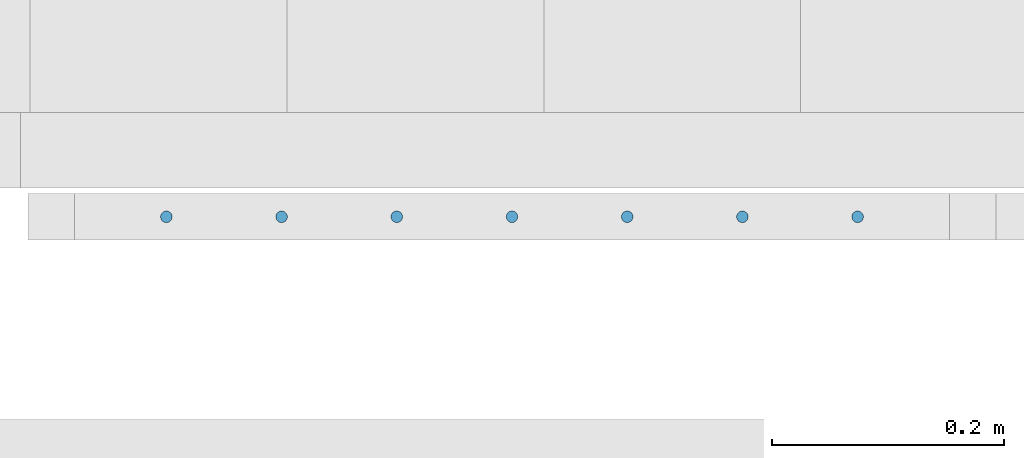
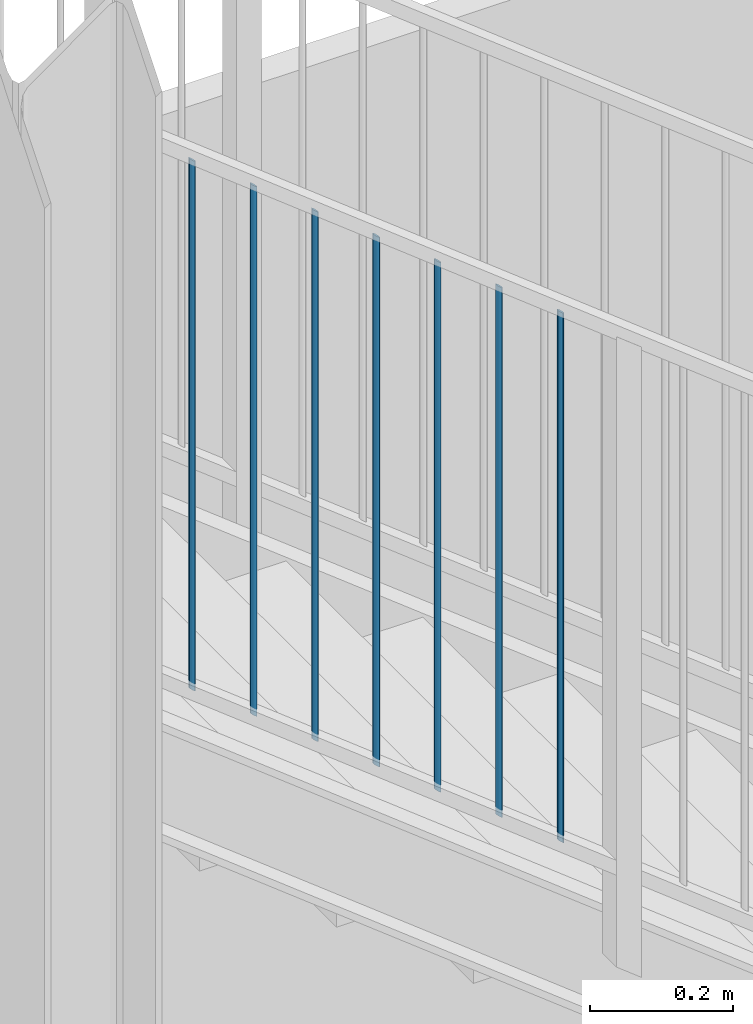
# One storey, part 23 of 135: 7 members, 1 element without a shape of its own.
"""IFC2X3 building model written with IfcOpenShell, lengths in millimetres."""

from ifc_helpers import new_model, entity, si_unit, converted_unit, derived_unit, money_unit, direction, frame, origin_with_axes, place, context, subcontext, project, spatial, faceted_brep, source, transform, mapped, material, type_object, type_shapes, element, aggregate, save


model = new_model("IFC2X3")

# Units and contexts
model_context = context("Model", 3, precision=0.01, world=origin_with_axes(), true_north=direction((0.0, 1.0)))
body_context = subcontext(model_context, "Body", "Model", "MODEL_VIEW")
ifc_project = project(units=[si_unit("LENGTHUNIT", "METRE", prefix="MILLI"), si_unit("AREAUNIT", "SQUARE_METRE"), si_unit("VOLUMEUNIT", "CUBIC_METRE"), converted_unit("PLANEANGLEUNIT", "DEGREE", entity("IfcPlaneAngleMeasure", 0.0174532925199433), si_unit("PLANEANGLEUNIT", "RADIAN"), dimensions=[0, 0, 0, 0, 0, 0, 0]), money_unit("EUR"), converted_unit("TIMEUNIT", "Year", entity("IfcTimeMeasure", 31557600.0), si_unit("TIMEUNIT", "SECOND"), dimensions=[0, 0, 1, 0, 0, 0, 0]), si_unit("MASSUNIT", "GRAM", prefix="KILO"), si_unit("THERMODYNAMICTEMPERATUREUNIT", "DEGREE_CELSIUS"), si_unit("LUMINOUSINTENSITYUNIT", "LUMEN"), si_unit("ENERGYUNIT", "JOULE", prefix="MEGA"), derived_unit("THERMALCONDUCTANCEUNIT", [(si_unit("POWERUNIT", "WATT"), 1), (si_unit("LENGTHUNIT", "METRE"), -1), (si_unit("THERMODYNAMICTEMPERATUREUNIT", "KELVIN"), -1)]), derived_unit("SPECIFICHEATCAPACITYUNIT", [(si_unit("ENERGYUNIT", "JOULE"), 1), (si_unit("MASSUNIT", "GRAM", prefix="KILO"), -1), (si_unit("THERMODYNAMICTEMPERATUREUNIT", "KELVIN"), -1)]), derived_unit("MASSDENSITYUNIT", [(si_unit("MASSUNIT", "GRAM", prefix="KILO"), 1), (si_unit("VOLUMEUNIT", "CUBIC_METRE"), -1)])], contexts=[model_context])

# Site, building, storey
site_placement = place(None, origin_with_axes())
site = spatial("IfcSite", under=ifc_project, at=site_placement, Name="Site", CompositionType="ELEMENT")
building_placement = place(site_placement, origin_with_axes())
building = spatial("IfcBuilding", under=site, at=building_placement, Name="Naam gebouw", CompositionType="ELEMENT")
storey_placement = place(building_placement, origin_with_axes())
storey = spatial("IfcBuildingStorey", under=building, at=storey_placement, Name="Begane grond N", CompositionType="ELEMENT", Elevation=0.0)

# Railing, members
railing_type = type_object("IfcRailingType", Name="Railing Type", PredefinedType="NOTDEFINED")
railing_placement = place(storey_placement, frame((56130.0, 22505.9124251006, 2285.20743093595), z_axis=(0.0, 0.0, 1.0), x_axis=(1.0, 0.0, 0.0)))
railing = element("IfcRailing", 1, at=railing_placement, inside=storey, type_object=railing_type, Name="_Reling-x", PredefinedType="NOTDEFINED")
ifc_material = material(Name="Metaal - Staal C")
member_type = type_object("IfcMemberType", Name="IfcMember", PredefinedType="MEMBER")
shared_shape = source(origin_with_axes(), body_context, "Body", "Brep", [
    faceted_brep([(0.0, -5.000000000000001, 3.926837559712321), (0.0, -5.000000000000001, 911.4268375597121), (-0.8682408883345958, -4.924038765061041, 911.3671800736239), (-0.8682408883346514, -4.924038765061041, 3.867180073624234), (0.8682408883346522, -4.924038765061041, 3.867180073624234), (0.8682408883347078, -4.924038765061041, 911.3671800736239), (1.710100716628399, -4.698463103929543, 911.1900202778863), (2.500000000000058, -4.330127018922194, 910.9007410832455), (3.213938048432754, -3.83022221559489, 910.5081320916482), (3.830222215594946, -3.213938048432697, 910.0241225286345), (4.330127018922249, -2.500000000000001, 909.4634187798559), (4.698463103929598, -1.710100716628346, 908.8430575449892), (4.924038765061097, -0.8682408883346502, 908.1818881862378), (5.000000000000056, 0.0, 907.4999999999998), (4.924038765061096, 0.8682408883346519, 906.8181118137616), (4.698463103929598, 1.710100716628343, 906.1569424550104), (4.330127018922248, 2.500000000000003, 905.5365812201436), (3.830222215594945, 3.213938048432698, 904.975877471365), (3.213938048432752, 3.830222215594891, 904.4918679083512), (2.500000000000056, 4.330127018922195, 904.099258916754), (1.710100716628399, 4.698463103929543, 903.8099797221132), (0.8682408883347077, 4.924038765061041, 903.6328199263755), (0.0, 5.000000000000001, 903.5731624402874), (-0.8682408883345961, 4.924038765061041, 903.6328199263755), (-1.710100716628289, 4.698463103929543, 903.8099797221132), (-2.499999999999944, 4.330127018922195, 904.099258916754), (-3.213938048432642, 3.83022221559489, 904.4918679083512), (-3.830222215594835, 3.213938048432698, 904.975877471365), (-4.330127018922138, 2.499999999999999, 905.5365812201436), (-4.698463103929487, 1.710100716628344, 906.1569424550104), (-4.924038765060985, 0.8682408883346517, 906.8181118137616), (-4.999999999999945, 0.0, 907.4999999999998), (-4.924038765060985, -0.8682408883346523, 908.1818881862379), (-4.698463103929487, -1.710100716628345, 908.8430575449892), (-4.330127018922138, -2.500000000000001, 909.4634187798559), (-3.830222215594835, -3.213938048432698, 910.0241225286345), (-3.21393804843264, -3.830222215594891, 910.5081320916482), (-2.499999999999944, -4.330127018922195, 910.9007410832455), (-1.710100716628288, -4.698463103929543, 911.1900202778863), (-1.710100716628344, -4.698463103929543, 3.690020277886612), (-2.5, -4.330127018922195, 3.400741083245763), (-3.213938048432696, -3.830222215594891, 3.008132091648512), (-3.83022221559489, -3.213938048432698, 2.524122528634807), (-4.330127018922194, -2.500000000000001, 1.963418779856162), (-4.698463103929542, -1.710100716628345, 1.343057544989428), (-4.92403876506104, -0.8682408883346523, 0.6818881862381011), (-5.0, 0.0, 0.0), (-4.92403876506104, 0.8682408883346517, -0.6818881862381), (-4.698463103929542, 1.710100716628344, -1.343057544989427), (-4.330127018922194, 2.499999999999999, -1.96341877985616), (-3.83022221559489, 3.213938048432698, -2.524122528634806), (-3.213938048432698, 3.83022221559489, -3.008132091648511), (-2.5, 4.330127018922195, -3.400741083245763), (-1.710100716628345, 4.698463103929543, -3.690020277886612), (-0.8682408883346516, 4.924038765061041, -3.867180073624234), (0.0, 5.000000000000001, -3.926837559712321), (0.8682408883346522, 4.924038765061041, -3.867180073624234), (1.710100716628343, 4.698463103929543, -3.690020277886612), (2.5, 4.330127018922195, -3.400741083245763), (3.213938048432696, 3.830222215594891, -3.008132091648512), (3.83022221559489, 3.213938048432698, -2.524122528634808), (4.330127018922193, 2.500000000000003, -1.963418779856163), (4.698463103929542, 1.710100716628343, -1.343057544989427), (4.92403876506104, 0.8682408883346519, -0.6818881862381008), (5.0, 0.0, 0.0), (4.924038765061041, -0.8682408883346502, 0.6818881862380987), (4.698463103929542, -1.710100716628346, 1.343057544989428), (4.330127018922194, -2.500000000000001, 1.963418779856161), (3.830222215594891, -3.213938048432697, 2.524122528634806), (3.213938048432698, -3.83022221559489, 3.008132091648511), (2.500000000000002, -4.330127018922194, 3.400741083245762), (1.710100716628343, -4.698463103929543, 3.690020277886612)], [[[0, 1, 2, 3]], [[4, 5, 1, 0]], [[1, 5, 6, 7, 8, 9, 10, 11, 12, 13, 14, 15, 16, 17, 18, 19, 20, 21, 22, 23, 24, 25, 26, 27, 28, 29, 30, 31, 32, 33, 34, 35, 36, 37, 38, 2]], [[3, 2, 38, 39]], [[0, 3, 39, 40, 41, 42, 43, 44, 45, 46, 47, 48, 49, 50, 51, 52, 53, 54, 55, 56, 57, 58, 59, 60, 61, 62, 63, 64, 65, 66, 67, 68, 69, 70, 71, 4]], [[71, 6, 5, 4]], [[70, 7, 6, 71]], [[69, 8, 7, 70]], [[68, 9, 8, 69]], [[67, 10, 9, 68]], [[66, 11, 10, 67]], [[65, 12, 11, 66]], [[64, 13, 12, 65]], [[63, 14, 13, 64]], [[62, 15, 14, 63]], [[61, 16, 15, 62]], [[60, 17, 16, 61]], [[59, 18, 17, 60]], [[58, 19, 18, 59]], [[57, 20, 19, 58]], [[56, 21, 20, 57]], [[55, 22, 21, 56]], [[54, 23, 22, 55]], [[53, 24, 23, 54]], [[52, 25, 24, 53]], [[51, 26, 25, 52]], [[50, 27, 26, 51]], [[49, 28, 27, 50]], [[48, 29, 28, 49]], [[47, 30, 29, 48]], [[46, 31, 30, 47]], [[45, 32, 31, 46]], [[44, 33, 32, 45]], [[43, 34, 33, 44]], [[42, 35, 34, 43]], [[41, 36, 35, 42]], [[40, 37, 36, 41]], [[39, 38, 37, 40]]]),
])
type_shapes(member_type, [shared_shape])
member_1_placement = place(railing_placement, frame((334.5172283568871, -24.99999999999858, 1867.624754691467), z_axis=(0.0, 0.0, 1.0), x_axis=(1.0, 0.0, 0.0)))
member_1 = element("IfcMember", 2, at=member_1_placement, type_object=member_type, material=ifc_material, Name="_Spijlen-x", ObjectType="MEMBER", context=body_context, shape_type="MappedRepresentation", body=[
    mapped(shared_shape, transform((0.0, 0.0, 0.0), x_axis=(0.0, -1.0, 0.0), y_axis=(1.0, 0.0, 0.0), z_axis=(0.0, 0.0, 1.0))),
])
member_2_placement = place(railing_placement, frame((533.5516850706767, -24.99999999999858, 1711.309558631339), z_axis=(0.0, 0.0, 1.0), x_axis=(1.0, 0.0, 0.0)))
member_2 = element("IfcMember", 3, at=member_2_placement, type_object=member_type, material=ifc_material, Name="_Spijlen-x", ObjectType="MEMBER", context=body_context, shape_type="MappedRepresentation", body=[
    mapped(shared_shape, transform((0.0, 0.0, 0.0), x_axis=(0.0, -1.0, 0.0), y_axis=(1.0, 0.0, 0.0), z_axis=(0.0, 0.0, 1.0))),
])
member_3_placement = place(railing_placement, frame((434.0344567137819, -24.99999999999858, 1789.467156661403), z_axis=(0.0, 0.0, 1.0), x_axis=(1.0, 0.0, 0.0)))
member_3 = element("IfcMember", 4, at=member_3_placement, type_object=member_type, material=ifc_material, Name="_Spijlen-x", ObjectType="MEMBER", context=body_context, shape_type="MappedRepresentation", body=[
    mapped(shared_shape, transform((0.0, 0.0, 0.0), x_axis=(0.0, -1.0, 0.0), y_axis=(1.0, 0.0, 0.0), z_axis=(0.0, 0.0, 1.0))),
])
member_4_placement = place(railing_placement, frame((633.0689134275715, -24.99999999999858, 1633.151960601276), z_axis=(0.0, 0.0, 1.0), x_axis=(1.0, 0.0, 0.0)))
member_4 = element("IfcMember", 5, at=member_4_placement, type_object=member_type, material=ifc_material, Name="_Spijlen-x", ObjectType="MEMBER", context=body_context, shape_type="MappedRepresentation", body=[
    mapped(shared_shape, transform((0.0, 0.0, 0.0), x_axis=(0.0, -1.0, 0.0), y_axis=(1.0, 0.0, 0.0), z_axis=(0.0, 0.0, 1.0))),
])
member_5_placement = place(railing_placement, frame((832.103370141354, -24.99999999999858, 1476.836764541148), z_axis=(0.0, 0.0, 1.0), x_axis=(1.0, 0.0, 0.0)))
member_5 = element("IfcMember", 6, at=member_5_placement, type_object=member_type, material=ifc_material, Name="_Spijlen-x", ObjectType="MEMBER", context=body_context, shape_type="MappedRepresentation", body=[
    mapped(shared_shape, transform((0.0, 0.0, 0.0), x_axis=(0.0, -1.0, 0.0), y_axis=(1.0, 0.0, 0.0), z_axis=(0.0, 0.0, 1.0))),
])
member_6_placement = place(railing_placement, frame((931.6205984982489, -24.99999999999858, 1398.679166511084), z_axis=(0.0, 0.0, 1.0), x_axis=(1.0, 0.0, 0.0)))
member_6 = element("IfcMember", 7, at=member_6_placement, type_object=member_type, material=ifc_material, Name="_Spijlen-x", ObjectType="MEMBER", context=body_context, shape_type="MappedRepresentation", body=[
    mapped(shared_shape, transform((0.0, 0.0, 0.0), x_axis=(0.0, -1.0, 0.0), y_axis=(1.0, 0.0, 0.0), z_axis=(0.0, 0.0, 1.0))),
])
member_7_placement = place(railing_placement, frame((732.5861417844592, -24.99999999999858, 1554.994362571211), z_axis=(0.0, 0.0, 1.0), x_axis=(1.0, 0.0, 0.0)))
member_7 = element("IfcMember", 8, at=member_7_placement, type_object=member_type, material=ifc_material, Name="_Spijlen-x", ObjectType="MEMBER", context=body_context, shape_type="MappedRepresentation", body=[
    mapped(shared_shape, transform((0.0, 0.0, 0.0), x_axis=(0.0, -1.0, 0.0), y_axis=(1.0, 0.0, 0.0), z_axis=(0.0, 0.0, 1.0))),
])
aggregate(railing, [member_1, member_2, member_3, member_4, member_5, member_6, member_7])

save(model, "model.ifc")
